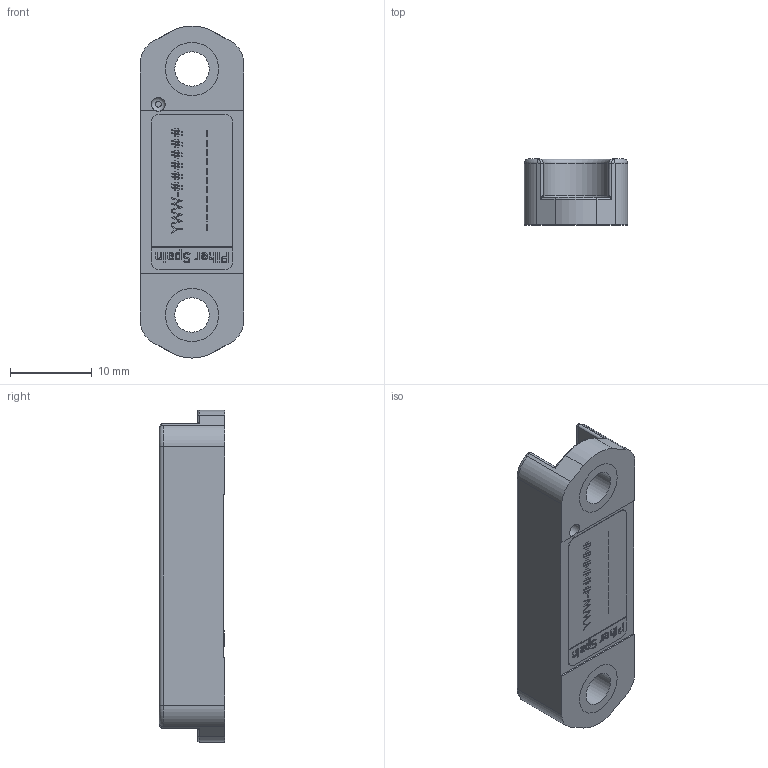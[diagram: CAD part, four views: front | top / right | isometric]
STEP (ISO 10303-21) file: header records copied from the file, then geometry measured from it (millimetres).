
FILE_DESCRIPTION (( 'STEP AP203' ), '1' );
FILE_NAME ('11438 PS2P-LMAGNT-002.STEP', '2018-08-30T10:51:12', ( '' ), ( '' ), 'SwSTEP 2.0', 'SolidWorks 2016', '' );
FILE_SCHEMA (( 'CONFIG_CONTROL_DESIGN' ));
Length unit declared in the file: millimetre
Products named in the file (1): 11438 PS2P-LMAGNT-002
Bounding box: 12.6 x 8 x 40.5 mm (x, y, z)
Volume: 3083.7 mm3; surface area: 2601.2 mm2
Topology: 4 solids, 4 shells, 2760 faces, 7696 edges, 5106 vertices
Faces by surface type: plane 2436, cylinder 160, bspline 141, torus 23
Full cylindrical faces by diameter (mm): 1 x1, 1.7 x1, 4.2 x2, 5.8 x2, 5.9 x6, 6.5 x8
Entity records: 93722 total; most frequent: CARTESIAN_POINT 34801, ORIENTED_EDGE 15298, DIRECTION 9071, EDGE_CURVE 7649, VERTEX_POINT 5098, VECTOR 3543, LINE 3543, EDGE_LOOP 2969
